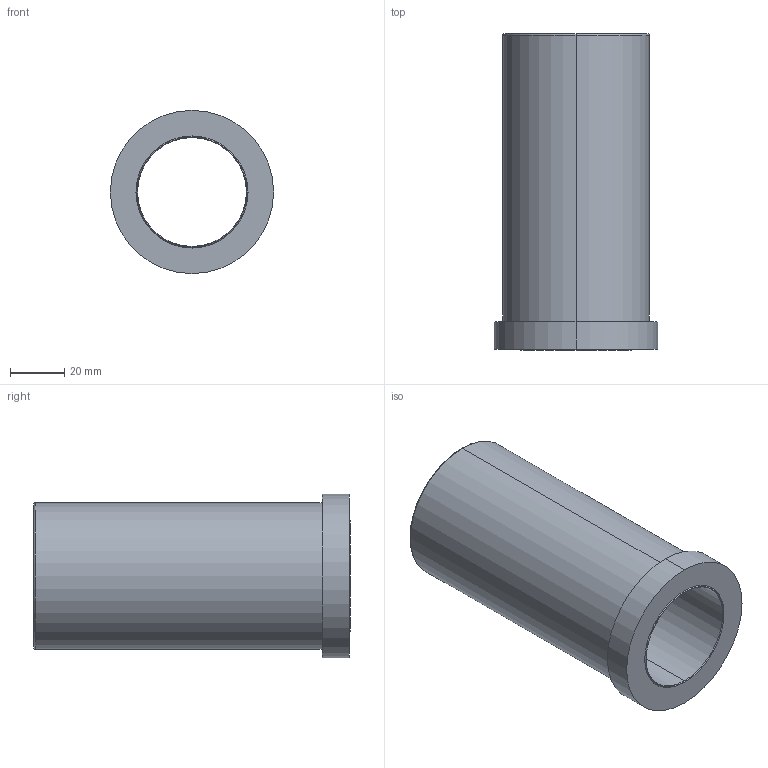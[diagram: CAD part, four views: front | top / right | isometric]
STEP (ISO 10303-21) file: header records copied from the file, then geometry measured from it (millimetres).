
FILE_DESCRIPTION (( 'STEP AP214' ), '1' );
FILE_NAME ('BR11W 40 x 116.STEP', '2020-07-16T11:30:49', ( 'August' ), ( '' ), 'SwSTEP 2.0', 'SolidWorks 2018', '' );
FILE_SCHEMA (( 'AUTOMOTIVE_DESIGN' ));
Length unit declared in the file: millimetre
Products named in the file (1): BR11W 40 x 116
Bounding box: 60 x 116.36 x 60 mm (x, y, z)
Volume: 125256.7 mm3; surface area: 37556.5 mm2
Topology: 1 solids, 1 shells, 17 faces, 34 edges, 20 vertices
Faces by surface type: cone 6, cylinder 6, plane 3, torus 2
Entity records: 484 total; most frequent: DIRECTION 92, CARTESIAN_POINT 72, ORIENTED_EDGE 68, AXIS2_PLACEMENT_3D 40, EDGE_CURVE 34, CIRCLE 22, VERTEX_POINT 20, EDGE_LOOP 20
